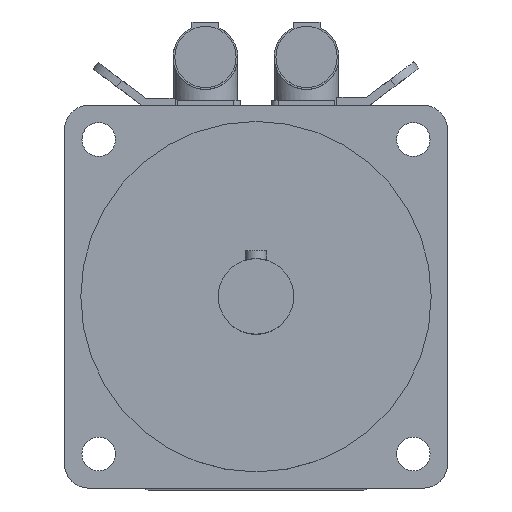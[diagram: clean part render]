
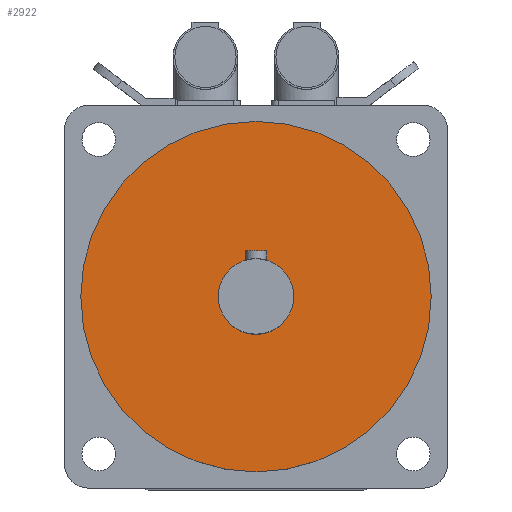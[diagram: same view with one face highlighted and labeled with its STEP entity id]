
A CAD part, top view. The second image highlights one B-rep face of the part: STEP entity #2922.
In plain terms, the highlighted planar face has unit normal (0, 0, 1).
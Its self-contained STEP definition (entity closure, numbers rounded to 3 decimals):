
#614=PLANE('',#3118);
#692=FACE_BOUND('',#926,.T.);
#742=FACE_OUTER_BOUND('',#925,.T.);
#925=EDGE_LOOP('',(#2098));
#926=EDGE_LOOP('',(#2099));
#1112=CIRCLE('',#3113,14.);
#1113=CIRCLE('',#3116,65.);
#1298=VERTEX_POINT('',#4521);
#1299=VERTEX_POINT('',#4525);
#1604=EDGE_CURVE('',#1298,#1298,#1112,.T.);
#1605=EDGE_CURVE('',#1299,#1299,#1113,.T.);
#2098=ORIENTED_EDGE('',*,*,#1605,.T.);
#2099=ORIENTED_EDGE('',*,*,#1604,.T.);
#2922=ADVANCED_FACE('',(#742,#692),#614,.T.);
#3113=AXIS2_PLACEMENT_3D('',#4522,#3545,#3546);
#3116=AXIS2_PLACEMENT_3D('',#4526,#3551,#3552);
#3118=AXIS2_PLACEMENT_3D('',#4529,#3555,#3556);
#3545=DIRECTION('center_axis',(0.,0.,-1.));
#3546=DIRECTION('ref_axis',(-1.,0.,0.));
#3551=DIRECTION('center_axis',(0.,0.,1.));
#3552=DIRECTION('ref_axis',(-1.,0.,0.));
#3555=DIRECTION('center_axis',(0.,0.,1.));
#3556=DIRECTION('ref_axis',(1.,0.,0.));
#4521=CARTESIAN_POINT('',(14.,0.,375.5));
#4522=CARTESIAN_POINT('Origin',(0.,0.,375.5));
#4525=CARTESIAN_POINT('',(65.,0.,375.5));
#4526=CARTESIAN_POINT('Origin',(0.,0.,375.5));
#4529=CARTESIAN_POINT('Origin',(0.,0.,375.5));
